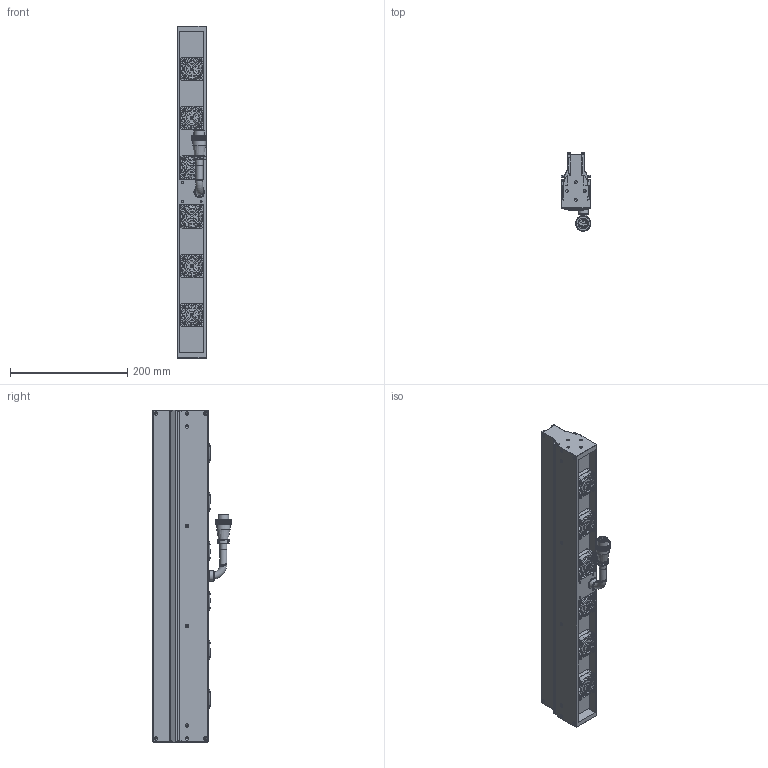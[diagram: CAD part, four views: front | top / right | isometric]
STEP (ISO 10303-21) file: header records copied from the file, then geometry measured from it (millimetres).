
FILE_DESCRIPTION (( 'STEP AP203' ), '1' );
FILE_NAME ('OPT-LSS566-W-V3.1U尨砩芞.STEP', '2025-01-21T03:59:58', ( 'USER' ), ( '' ), 'SwSTEP 2.0', 'SolidWorks 2016', '' );
FILE_SCHEMA (( 'CONFIG_CONTROL_DESIGN' ));
Products named in the file (2): OPT-LSS566-W-V3.1U尨砩芞
Bounding box: 50.6 x 133 x 566 mm (x, y, z)
Volume: 1931233.6 mm3; surface area: 335064.1 mm2
Topology: 30 solids, 44 shells, 3208 faces, 8091 edges, 5103 vertices
Faces by surface type: bspline 1105, cylinder 965, plane 741, torus 342, cone 55
Full cylindrical faces by diameter (mm): 1 x2, 1.1 x2, 1.4 x2, 1.6 x24, 2 x6, 2.5 x24, 3 x4, 3.2 x28, 3.4 x20, 3.5 x10, 5 x8, 6.2 x24, 8 x1, 11.6 x1, 11.7 x3, 12 x1, 15 x1, 15.9 x1, 17.5 x1, 18 x1, 18.5 x1, 22.8 x1, 24 x1, 24.8 x6, 38 x6
Entity records: 117881 total; most frequent: CARTESIAN_POINT 53845, ORIENTED_EDGE 15222, DIRECTION 9144, EDGE_CURVE 7611, VERTEX_POINT 4994, B_SPLINE_CURVE_WITH_KNOTS 4359, AXIS2_PLACEMENT_3D 3795, EDGE_LOOP 3757
